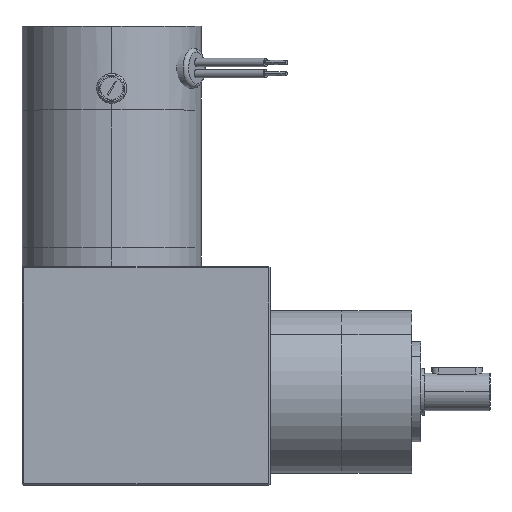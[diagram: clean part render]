
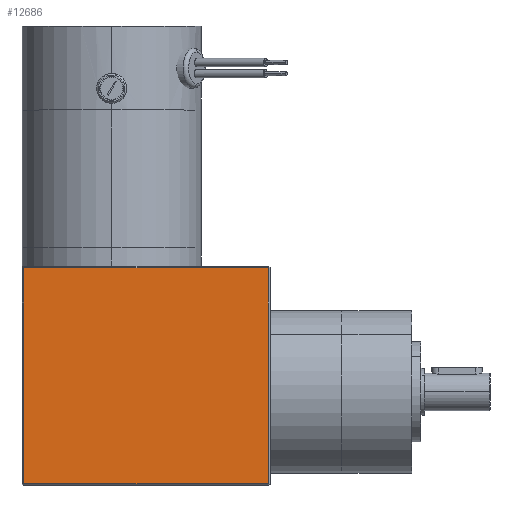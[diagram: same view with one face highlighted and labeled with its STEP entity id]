
A CAD part, top view. The second image highlights one B-rep face of the part: STEP entity #12686.
In plain terms, the highlighted planar face has unit normal (0, 0, 1).
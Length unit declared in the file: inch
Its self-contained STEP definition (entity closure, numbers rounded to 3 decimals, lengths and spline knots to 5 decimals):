
#1298 = DIRECTION ( 'NONE',  ( 0., -1., 0. ) ) ;
#1388 = CARTESIAN_POINT ( 'NONE',  ( 7.72172, 3.49643, 4.88687 ) ) ;
#1542 = CARTESIAN_POINT ( 'NONE',  ( 7.74172, 0.76643, 4.88687 ) ) ;
#1563 = VECTOR ( 'NONE', #12941, 39.37008 ) ;
#1683 = CARTESIAN_POINT ( 'NONE',  ( 4.64872, 0.76643, 4.88687 ) ) ;
#2232 = DIRECTION ( 'NONE',  ( 1., 0., 0. ) ) ;
#2583 = CARTESIAN_POINT ( 'NONE',  ( 7.72172, 0.76643, 4.88687 ) ) ;
#2598 = DIRECTION ( 'NONE',  ( 0., 1., 0. ) ) ;
#2621 = AXIS2_PLACEMENT_3D ( 'NONE', #15233, #11662, #2232 ) ;
#2640 = CARTESIAN_POINT ( 'NONE',  ( 4.64872, 3.47643, 4.88687 ) ) ;
#2824 = DIRECTION ( 'NONE',  ( 1., 0., 0. ) ) ;
#3339 = PLANE ( 'NONE',  #2621 ) ;
#3410 = VECTOR ( 'NONE', #1298, 39.37008 ) ;
#3914 = ORIENTED_EDGE ( 'NONE', *, *, #12820, .T. ) ;
#4365 = VECTOR ( 'NONE', #2824, 39.37008 ) ;
#4892 = VERTEX_POINT ( 'NONE', #1683 ) ;
#5124 = LINE ( 'NONE', #5782, #1563 ) ;
#5782 = CARTESIAN_POINT ( 'NONE',  ( 4.62872, 3.47643, 4.88687 ) ) ;
#6223 = VERTEX_POINT ( 'NONE', #2640 ) ;
#6230 = VERTEX_POINT ( 'NONE', #2583 ) ;
#6237 = LINE ( 'NONE', #1542, #4365 ) ;
#6567 = EDGE_CURVE ( 'NONE', #6223, #4892, #11223, .T. ) ;
#6804 = LINE ( 'NONE', #1388, #9557 ) ;
#8231 = ORIENTED_EDGE ( 'NONE', *, *, #12940, .T. ) ;
#8831 = ORIENTED_EDGE ( 'NONE', *, *, #13075, .T. ) ;
#9028 = FACE_OUTER_BOUND ( 'NONE', #10085, .T. ) ;
#9557 = VECTOR ( 'NONE', #2598, 39.37008 ) ;
#10085 = EDGE_LOOP ( 'NONE', ( #8831, #8231, #3914, #14785 ) ) ;
#11223 = LINE ( 'NONE', #15436, #3410 ) ;
#11410 = CARTESIAN_POINT ( 'NONE',  ( 7.72172, 3.47643, 4.88687 ) ) ;
#11662 = DIRECTION ( 'NONE',  ( 0., 0., 1. ) ) ;
#12192 = VERTEX_POINT ( 'NONE', #11410 ) ;
#12686 = ADVANCED_FACE ( 'NONE', ( #9028 ), #3339, .T. ) ;
#12820 = EDGE_CURVE ( 'NONE', #12192, #6223, #5124, .T. ) ;
#12940 = EDGE_CURVE ( 'NONE', #6230, #12192, #6804, .T. ) ;
#12941 = DIRECTION ( 'NONE',  ( -1., 0., 0. ) ) ;
#13075 = EDGE_CURVE ( 'NONE', #4892, #6230, #6237, .T. ) ;
#14785 = ORIENTED_EDGE ( 'NONE', *, *, #6567, .T. ) ;
#15233 = CARTESIAN_POINT ( 'NONE',  ( 6.18522, 2.12143, 4.88687 ) ) ;
#15436 = CARTESIAN_POINT ( 'NONE',  ( 4.64872, 0.74643, 4.88687 ) ) ;
